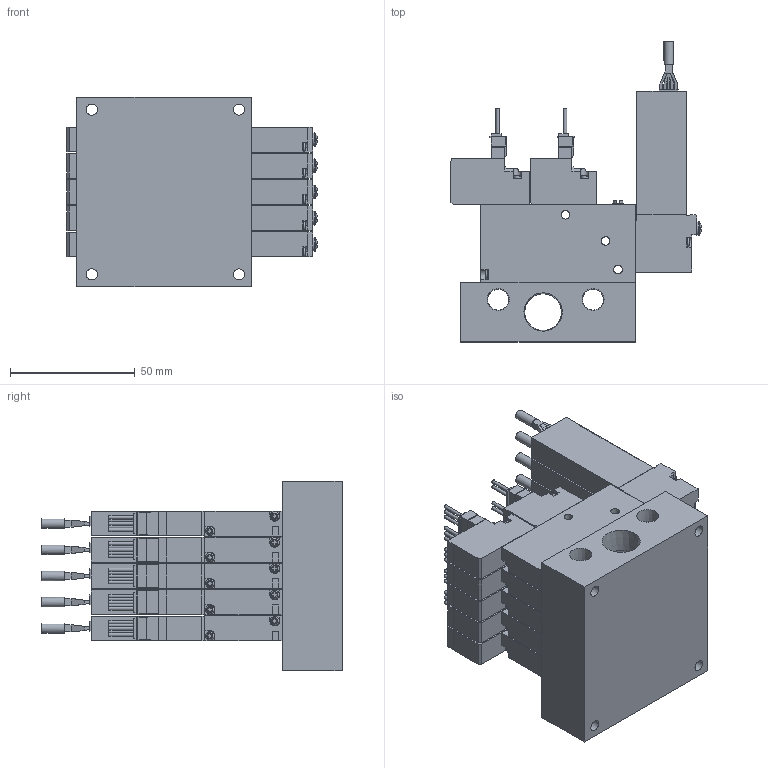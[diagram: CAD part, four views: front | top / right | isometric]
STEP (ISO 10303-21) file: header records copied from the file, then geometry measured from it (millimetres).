
FILE_DESCRIPTION(('STEP AP203'),'1');
FILE_NAME('BMPV42MV9.V9P5W505.stp','2025-04-30T01:57:01',(' '),(' '),'Spatial InterOp 3D',' ',' ');
FILE_SCHEMA(('CONFIG_CONTROL_DESIGN'));
Length unit declared in the file: millimetre
Products named in the file (6): BMPV42MV9.V9P5W505; VACUUM VALVE FUNCTION MPV42-W; VACUUM SENSOR MPV42-V9; VACUUM VALVE FUNCTION MPV42-A; UNIT-MPV42; MPV42-M50R-1
Assembly tree (21 placements, depth 2):
  BMPV42MV9.V9P5W505
    VACUUM VALVE FUNCTION MPV42-W  x5
    VACUUM SENSOR MPV42-V9  x5
    VACUUM VALVE FUNCTION MPV42-A  x5
    UNIT-MPV42  x5
    MPV42-M50R-1
Bounding box: 100.35 x 120.3 x 76 mm (x, y, z)
Volume: 326004.4 mm3; surface area: 108796.9 mm2
Topology: 21 solids, 21 shells, 1934 faces, 5234 edges, 3467 vertices
Faces by surface type: plane 1516, cylinder 342, cone 26, sphere 25, torus 25
Full cylindrical faces by diameter (mm): 1.4 x25, 1.8 x5, 2.2 x10, 3 x20, 3.5 x55, 3.8 x5, 4.134 x10, 4.5 x4, 5 x5, 5.5 x5, 8.441 x2, 14.744 x1
Entity records: 12786 total; most frequent: CARTESIAN_POINT 2425, DIRECTION 2032, ORIENTED_EDGE 2016, EDGE_CURVE 1008, LINE 788, VECTOR 788, VERTEX_POINT 697, AXIS2_PLACEMENT_3D 622
